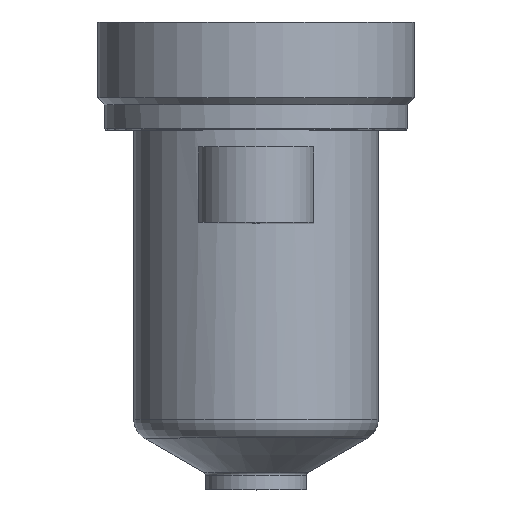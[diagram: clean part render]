
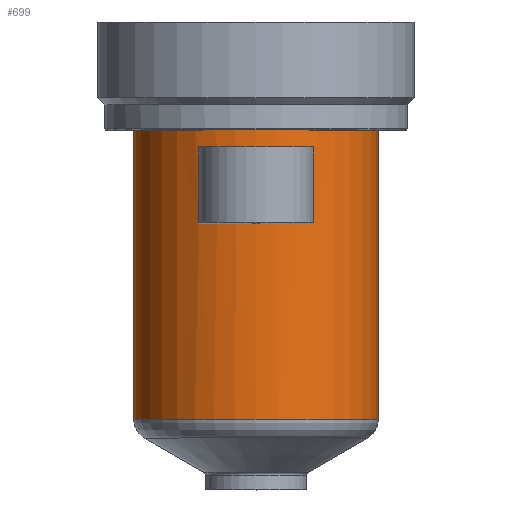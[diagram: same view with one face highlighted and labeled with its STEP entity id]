
A CAD part, top view. The second image highlights one B-rep face of the part: STEP entity #699.
In plain terms, the highlighted cylindrical face has radius 17 mm (diameter 34 mm), a partial arc.
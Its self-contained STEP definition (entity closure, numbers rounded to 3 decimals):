
#191=DIRECTION('',(0.,-1.,0.));
#192=VECTOR('',#191,40.206);
#193=CARTESIAN_POINT('',(17.,0.,0.));
#194=LINE('',#193,#192);
#195=CARTESIAN_POINT('',(0.,-40.206,0.));
#196=DIRECTION('',(0.,1.,0.));
#197=DIRECTION('',(-1.,0.,0.));
#198=AXIS2_PLACEMENT_3D('',#195,#196,#197);
#200=DIRECTION('',(0.,1.,0.));
#201=VECTOR('',#200,40.206);
#202=CARTESIAN_POINT('',(-17.,-40.206,0.));
#203=LINE('',#202,#201);
#204=CARTESIAN_POINT('',(0.,0.,0.));
#205=DIRECTION('',(0.,1.,0.));
#206=DIRECTION('',(-1.,0.,0.));
#207=AXIS2_PLACEMENT_3D('',#204,#205,#206);
#285=DIRECTION('',(0.,1.,0.));
#286=VECTOR('',#285,10.5);
#287=CARTESIAN_POINT('',(-8.,-13.,15.));
#288=LINE('',#287,#286);
#289=CARTESIAN_POINT('',(0.,-13.,0.));
#290=DIRECTION('',(0.,1.,0.));
#291=DIRECTION('',(-0.471,0.,0.882));
#292=AXIS2_PLACEMENT_3D('',#289,#290,#291);
#315=CARTESIAN_POINT('',(0.,-2.5,0.));
#316=DIRECTION('',(0.,-1.,0.));
#317=DIRECTION('',(0.471,0.,0.882));
#318=AXIS2_PLACEMENT_3D('',#315,#316,#317);
#333=DIRECTION('',(0.,1.,0.));
#334=VECTOR('',#333,10.5);
#335=CARTESIAN_POINT('',(8.,-13.,15.));
#336=LINE('',#335,#334);
#394=CARTESIAN_POINT('',(-17.,0.,0.));
#395=CARTESIAN_POINT('',(17.,0.,0.));
#396=VERTEX_POINT('',#394);
#397=VERTEX_POINT('',#395);
#406=CARTESIAN_POINT('',(-8.,-2.5,15.));
#407=VERTEX_POINT('',#406);
#408=CARTESIAN_POINT('',(8.,-2.5,15.));
#409=VERTEX_POINT('',#408);
#446=CARTESIAN_POINT('',(17.,-40.206,0.));
#447=VERTEX_POINT('',#446);
#456=CARTESIAN_POINT('',(-17.,-40.206,0.));
#457=VERTEX_POINT('',#456);
#458=CARTESIAN_POINT('',(-8.,-13.,15.));
#459=CARTESIAN_POINT('',(8.,-13.,15.));
#460=VERTEX_POINT('',#458);
#461=VERTEX_POINT('',#459);
#677=CARTESIAN_POINT('',(0.,16.4,0.));
#678=DIRECTION('',(0.,-1.,0.));
#679=DIRECTION('',(-1.,0.,0.));
#680=AXIS2_PLACEMENT_3D('',#677,#678,#679);
#681=CYLINDRICAL_SURFACE('',#680,17.);
#682=ORIENTED_EDGE('',*,*,#671,.T.);
#684=ORIENTED_EDGE('',*,*,#683,.F.);
#685=ORIENTED_EDGE('',*,*,#667,.T.);
#686=ORIENTED_EDGE('',*,*,#657,.T.);
#687=EDGE_LOOP('',(#682,#684,#685,#686));
#688=FACE_OUTER_BOUND('',#687,.F.);
#690=ORIENTED_EDGE('',*,*,#689,.F.);
#692=ORIENTED_EDGE('',*,*,#691,.T.);
#694=ORIENTED_EDGE('',*,*,#693,.T.);
#696=ORIENTED_EDGE('',*,*,#695,.T.);
#697=EDGE_LOOP('',(#690,#692,#694,#696));
#698=FACE_BOUND('',#697,.F.);
#699=ADVANCED_FACE('',(#688,#698),#681,.T.);
#199=CIRCLE('',#198,17.);
#208=CIRCLE('',#207,17.);
#293=CIRCLE('',#292,17.);
#319=CIRCLE('',#318,17.);
#657=EDGE_CURVE('',#396,#397,#208,.T.);
#667=EDGE_CURVE('',#457,#396,#203,.T.);
#671=EDGE_CURVE('',#397,#447,#194,.T.);
#683=EDGE_CURVE('',#457,#447,#199,.T.);
#689=EDGE_CURVE('',#460,#407,#288,.T.);
#691=EDGE_CURVE('',#460,#461,#293,.T.);
#693=EDGE_CURVE('',#461,#409,#336,.T.);
#695=EDGE_CURVE('',#409,#407,#319,.T.);
